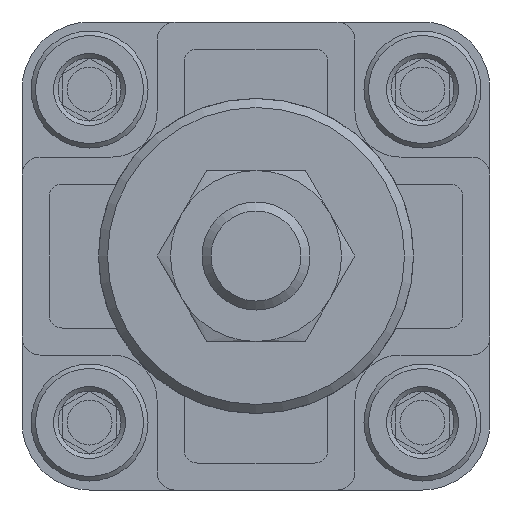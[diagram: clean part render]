
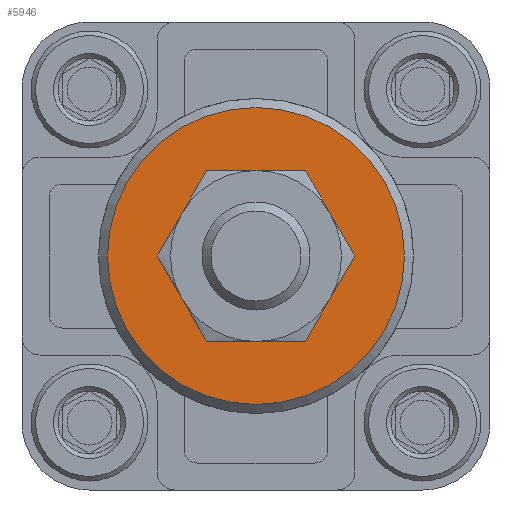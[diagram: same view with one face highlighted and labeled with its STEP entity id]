
A CAD part, front view. The second image highlights one B-rep face of the part: STEP entity #5946.
In plain terms, the highlighted planar face has unit normal (0, -1, 0).
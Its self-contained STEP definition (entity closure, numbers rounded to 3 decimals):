
#939=ORIENTED_EDGE('',*,*,#2167,.T.);
#940=ORIENTED_EDGE('',*,*,#2165,.T.);
#2165=EDGE_CURVE('',#2780,#2780,#3215,.T.);
#2167=EDGE_CURVE('',#2782,#2782,#3217,.F.);
#2780=VERTEX_POINT('',#8169);
#2782=VERTEX_POINT('',#8175);
#3215=CIRCLE('',#6254,9.);
#3217=CIRCLE('',#6258,16.5);
#3450=EDGE_LOOP('',(#939));
#3451=EDGE_LOOP('',(#940));
#3838=FACE_BOUND('',#3450,.T.);
#3839=FACE_BOUND('',#3451,.T.);
#4220=PLANE('',#6257);
#5946=ADVANCED_FACE('',(#3838,#3839),#4220,.F.);
#6254=AXIS2_PLACEMENT_3D('',#8168,#6780,#6781);
#6257=AXIS2_PLACEMENT_3D('',#8173,#6786,#6787);
#6258=AXIS2_PLACEMENT_3D('',#8174,#6788,#6789);
#6780=DIRECTION('',(0.,1.,0.));
#6781=DIRECTION('',(0.,0.,1.));
#6786=DIRECTION('',(0.,1.,0.));
#6787=DIRECTION('',(0.,0.,1.));
#6788=DIRECTION('',(0.,1.,0.));
#6789=DIRECTION('',(0.,0.,1.));
#8168=CARTESIAN_POINT('',(0.,-46.,0.));
#8169=CARTESIAN_POINT('',(0.,-46.,9.));
#8173=CARTESIAN_POINT('',(0.,-46.,0.));
#8174=CARTESIAN_POINT('',(0.,-46.,0.));
#8175=CARTESIAN_POINT('',(0.,-46.,16.5));
